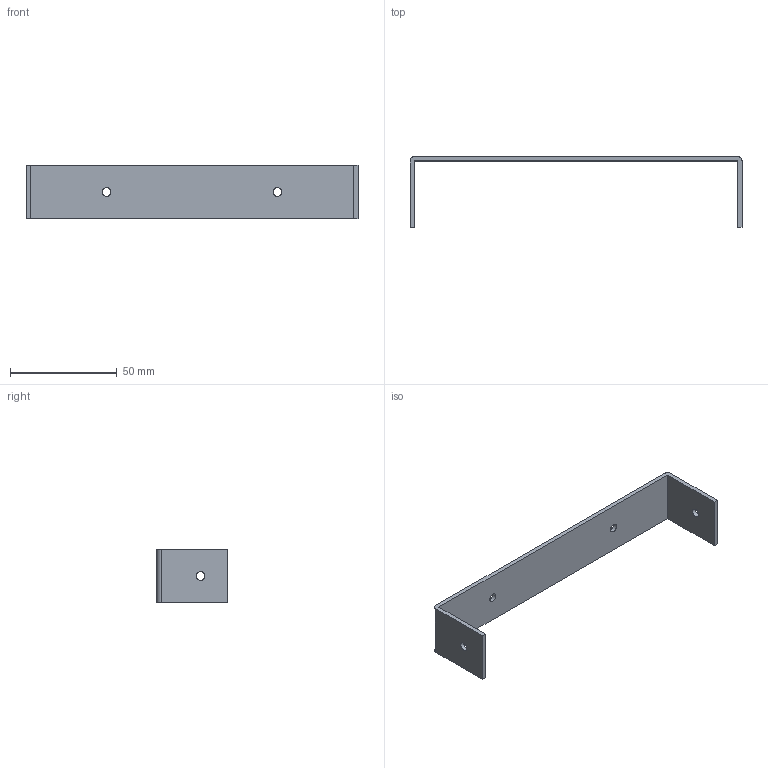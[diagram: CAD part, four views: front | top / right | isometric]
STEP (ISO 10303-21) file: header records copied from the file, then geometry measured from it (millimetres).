
FILE_DESCRIPTION(('HOOPS Exchange Step'),'2;1');
FILE_NAME('C:\Users\ZakSawa\AppData\Local\Temp\Alibre Design\export-8F8885ED-0D42-4DF1-A7A5-4E061D9F41CD.stp','2019-08-02T19:49:13+09:00',('ZakSawa'),('Alibre'),'HOOPS Exchange 2019.2','Alibre','Unknown authorisation');
FILE_SCHEMA( ('AP203_CONFIGURATION_CONTROLLED_3D_DESIGN_OF_MECHANICAL_PARTS_AND_ASSEMBLIES_MIM_LF') );
Length unit declared in the file: millimetre
Products named in the file (1): BatteryHolderMainFrameD
Bounding box: 155.5 x 33 x 25 mm (x, y, z)
Volume: 10731.5 mm3; surface area: 11798.6 mm2
Topology: 1 solids, 1 shells, 16 faces, 44 edges, 30 vertices
Faces by surface type: plane 10, cylinder 6
Full cylindrical faces by diameter (mm): 4 x4
Entity records: 559 total; most frequent: DIRECTION 92, CARTESIAN_POINT 91, ORIENTED_EDGE 88, EDGE_CURVE 44, AXIS2_PLACEMENT_3D 31, VERTEX_POINT 30, VECTOR 30, LINE 30
